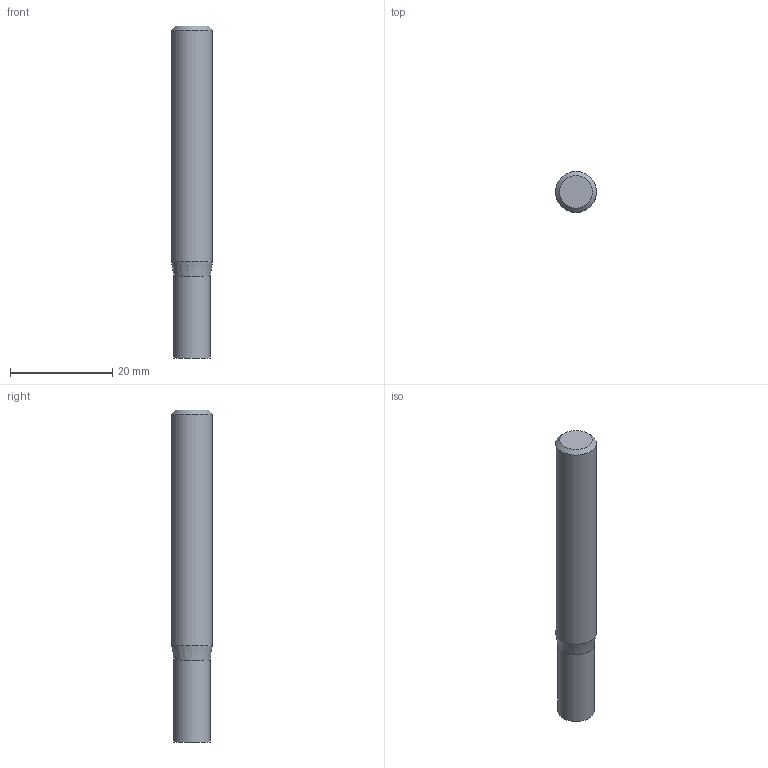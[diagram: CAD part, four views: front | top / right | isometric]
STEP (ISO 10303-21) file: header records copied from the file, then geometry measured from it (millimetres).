
FILE_DESCRIPTION((''),'2;1');
FILE_NAME('C:\Users\nsx150\AppData\Local\Temp\Mastercam 2021\98T1Q6BTT1\TEMP.step','2021-10-21T14:49:19',(''),(''),'STEP Write','Mastercam 2021 ... CNC Software, Inc.','');
FILE_SCHEMA(('AUTOMOTIVE_DESIGN'));
Length unit declared in the file: millimetre
Products named in the file (1): None
Bounding box: 8 x 8 x 65 mm (x, y, z)
Volume: 3073.5 mm3; surface area: 1741.6 mm2
Topology: 2 solids, 2 shells, 8 faces, 10 edges, 6 vertices
Faces by surface type: plane 4, cylinder 2, cone 2
Full cylindrical faces by diameter (mm): 7.1 x1, 8 x1
Entity records: 190 total; most frequent: DIRECTION 32, CARTESIAN_POINT 22, AXIS2_PLACEMENT_3D 16, ORIENTED_EDGE 12, EDGE_LOOP 12, STYLED_ITEM 11, ADVANCED_FACE 8, VERTEX_POINT 6
